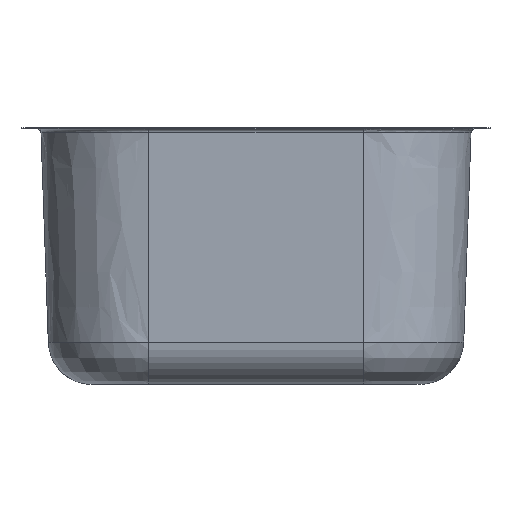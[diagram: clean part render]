
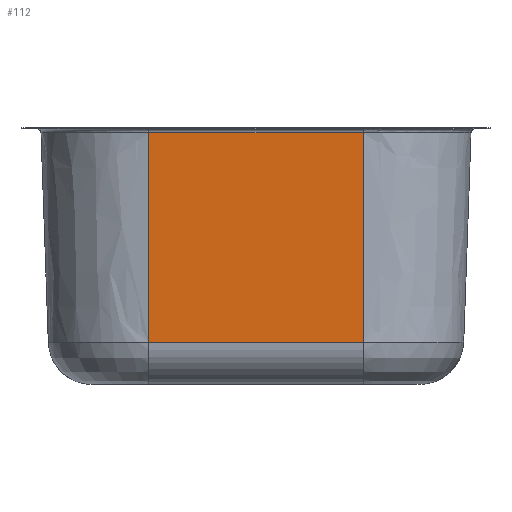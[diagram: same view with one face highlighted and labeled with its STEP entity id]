
A CAD part, left-side view. The second image highlights one B-rep face of the part: STEP entity #112.
In plain terms, the highlighted planar face has unit normal (-0.999, 0, -0.035).
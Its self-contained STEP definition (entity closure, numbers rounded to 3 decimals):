
#112=ADVANCED_FACE('',(#255),#256,.T.);
#255=FACE_OUTER_BOUND('',#2583,.T.);
#256=PLANE('',#2584);
#2583=EDGE_LOOP('',(#5432,#5433,#5434,#5435));
#2584=AXIS2_PLACEMENT_3D('',#5436,#5437,#5438);
#5432=ORIENTED_EDGE('',*,*,#5944,.T.);
#5433=ORIENTED_EDGE('',*,*,#5943,.T.);
#5434=ORIENTED_EDGE('',*,*,#5945,.T.);
#5435=ORIENTED_EDGE('',*,*,#5946,.F.);
#5436=CARTESIAN_POINT('',(-197.694,0.,-89.674));
#5437=DIRECTION('',(-0.999,0.,-0.035));
#5438=DIRECTION('',(-0.035,0.0,0.999));
#5943=EDGE_CURVE('',#6291,#6286,#6295,.T.);
#5944=EDGE_CURVE('',#6296,#6291,#6297,.T.);
#5945=EDGE_CURVE('',#6286,#6298,#6299,.F.);
#5946=EDGE_CURVE('',#6296,#6298,#6300,.T.);
#6286=VERTEX_POINT('',#7475);
#6291=VERTEX_POINT('',#7504);
#6295=B_SPLINE_CURVE_WITH_KNOTS('',1,(#7556,#7557),.UNSPECIFIED.,.F.,.F.,(2,2),(28.971,175.836),.UNSPECIFIED.);
#6296=VERTEX_POINT('',#7558);
#6297=LINE('',#7559,#7560);
#6298=VERTEX_POINT('',#7561);
#6299=LINE('',#7562,#7563);
#6300=LINE('',#7564,#7565);
#7475=CARTESIAN_POINT('',(-200.7,-75.,-3.595));
#7504=CARTESIAN_POINT('',(-195.574,-75.,-150.371));
#7556=CARTESIAN_POINT('',(-195.574,-75.0,-150.371));
#7557=CARTESIAN_POINT('',(-200.7,-75.,-3.595));
#7558=CARTESIAN_POINT('',(-195.574,75.0,-150.371));
#7559=CARTESIAN_POINT('',(-195.574,0.,-150.371));
#7560=VECTOR('',#8384,1.0);
#7561=CARTESIAN_POINT('',(-200.7,75.0,-3.595));
#7562=CARTESIAN_POINT('',(-200.7,0.,-3.595));
#7563=VECTOR('',#8385,1.0);
#7564=CARTESIAN_POINT('',(-198.137,75.0,-76.983));
#7565=VECTOR('',#8386,1.0);
#8384=DIRECTION('',(0.,-1.0,0.0));
#8385=DIRECTION('',(0.,-1.0,0.0));
#8386=DIRECTION('',(-0.035,0.0,0.999));
